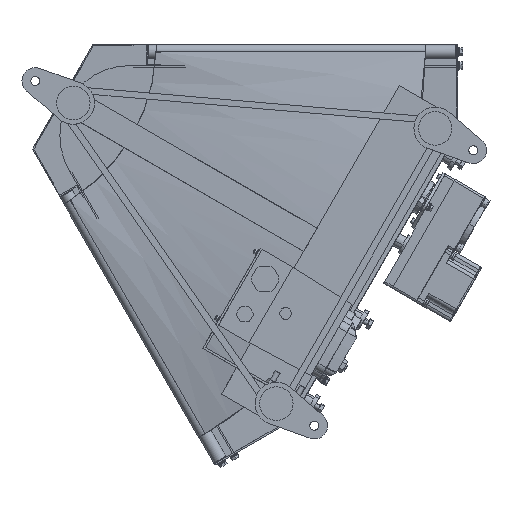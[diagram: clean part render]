
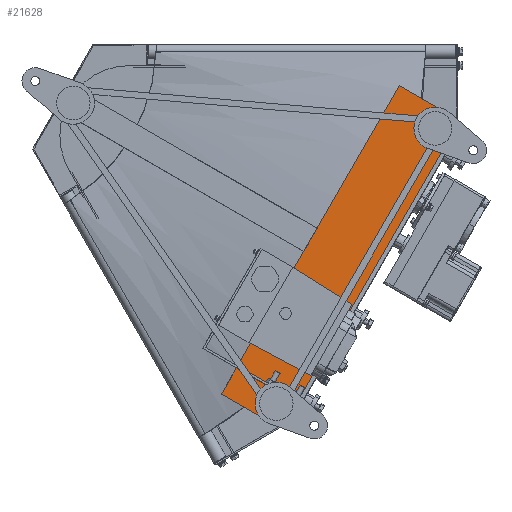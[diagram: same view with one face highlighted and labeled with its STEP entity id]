
A CAD part, front view. The second image highlights one B-rep face of the part: STEP entity #21628.
In plain terms, the highlighted planar face has unit normal (0, -1, 0).
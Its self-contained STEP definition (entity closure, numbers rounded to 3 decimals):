
#828 = CARTESIAN_POINT ( 'NONE',  ( 356.512, -167.5, -500.281 ) ) ;
#1586 = FACE_OUTER_BOUND ( 'NONE', #37620, .T. ) ;
#2841 = DIRECTION ( 'NONE',  ( 0.5, 0., 0.866 ) ) ;
#4681 = VECTOR ( 'NONE', #18361, 1000. ) ;
#5267 = ORIENTED_EDGE ( 'NONE', *, *, #20852, .F. ) ;
#6668 = LINE ( 'NONE', #43975, #46838 ) ;
#7696 = VERTEX_POINT ( 'NONE', #12302 ) ;
#8749 = CARTESIAN_POINT ( 'NONE',  ( 683.115, -167.5, -134.589 ) ) ;
#9471 = ORIENTED_EDGE ( 'NONE', *, *, #10880, .F. ) ;
#9609 = CARTESIAN_POINT ( 'NONE',  ( 611.512, -167.5, -58.608 ) ) ;
#10215 = ORIENTED_EDGE ( 'NONE', *, *, #14938, .F. ) ;
#10880 = EDGE_CURVE ( 'NONE', #33893, #7696, #26161, .T. ) ;
#11116 = CARTESIAN_POINT ( 'NONE',  ( 611.512, -167.5, -58.608 ) ) ;
#12302 = CARTESIAN_POINT ( 'NONE',  ( 417.134, -167.5, -535.281 ) ) ;
#12625 = EDGE_CURVE ( 'NONE', #44837, #28117, #6668, .T. ) ;
#13196 = EDGE_CURVE ( 'NONE', #32362, #44252, #17857, .T. ) ;
#13341 = CARTESIAN_POINT ( 'NONE',  ( 683.115, -167.5, -134.589 ) ) ;
#14938 = EDGE_CURVE ( 'NONE', #7696, #44837, #21368, .T. ) ;
#15782 = DIRECTION ( 'NONE',  ( -0.966, 0., -0.259 ) ) ;
#16578 = VECTOR ( 'NONE', #42769, 1000. ) ;
#16653 = VECTOR ( 'NONE', #35198, 1000. ) ;
#17857 = LINE ( 'NONE', #8749, #16653 ) ;
#18361 = DIRECTION ( 'NONE',  ( -0.5, 0., -0.866 ) ) ;
#20817 = VECTOR ( 'NONE', #15782, 1000. ) ;
#20852 = EDGE_CURVE ( 'NONE', #28117, #32362, #36539, .T. ) ;
#21368 = LINE ( 'NONE', #828, #16578 ) ;
#21628 = ADVANCED_FACE ( 'NONE', ( #1586 ), #48065, .F. ) ;
#22201 = CARTESIAN_POINT ( 'NONE',  ( 458.115, -167.5, -524.3 ) ) ;
#23577 = VECTOR ( 'NONE', #38054, 1000. ) ;
#23919 = CARTESIAN_POINT ( 'NONE',  ( 356.512, -167.5, -500.281 ) ) ;
#24671 = CARTESIAN_POINT ( 'NONE',  ( 458.115, -167.5, -524.3 ) ) ;
#26161 = LINE ( 'NONE', #38582, #20817 ) ;
#26465 = EDGE_CURVE ( 'NONE', #44252, #33893, #34224, .T. ) ;
#28117 = VERTEX_POINT ( 'NONE', #9609 ) ;
#29279 = DIRECTION ( 'NONE',  ( 0.208, 0., 0.978 ) ) ;
#32362 = VERTEX_POINT ( 'NONE', #37473 ) ;
#32579 = CARTESIAN_POINT ( 'NONE',  ( 96.033, -167.5, -55.445 ) ) ;
#33893 = VERTEX_POINT ( 'NONE', #24671 ) ;
#34224 = LINE ( 'NONE', #22201, #4681 ) ;
#35198 = DIRECTION ( 'NONE',  ( 0.259, 0., -0.966 ) ) ;
#35534 = ORIENTED_EDGE ( 'NONE', *, *, #13196, .F. ) ;
#36200 = AXIS2_PLACEMENT_3D ( 'NONE', #32579, #36519, #29279 ) ;
#36519 = DIRECTION ( 'NONE',  ( 0., 1., 0. ) ) ;
#36539 = LINE ( 'NONE', #11116, #23577 ) ;
#37473 = CARTESIAN_POINT ( 'NONE',  ( 672.134, -167.5, -93.608 ) ) ;
#37620 = EDGE_LOOP ( 'NONE', ( #35534, #5267, #39418, #10215, #9471, #39374 ) ) ;
#38054 = DIRECTION ( 'NONE',  ( 0.866, 0., -0.5 ) ) ;
#38582 = CARTESIAN_POINT ( 'NONE',  ( 417.134, -167.5, -535.281 ) ) ;
#39374 = ORIENTED_EDGE ( 'NONE', *, *, #26465, .F. ) ;
#39418 = ORIENTED_EDGE ( 'NONE', *, *, #12625, .F. ) ;
#42769 = DIRECTION ( 'NONE',  ( -0.866, 0., 0.5 ) ) ;
#43975 = CARTESIAN_POINT ( 'NONE',  ( 356.512, -167.5, -500.281 ) ) ;
#44252 = VERTEX_POINT ( 'NONE', #13341 ) ;
#44837 = VERTEX_POINT ( 'NONE', #23919 ) ;
#46838 = VECTOR ( 'NONE', #2841, 1000. ) ;
#48065 = PLANE ( 'NONE',  #36200 ) ;
